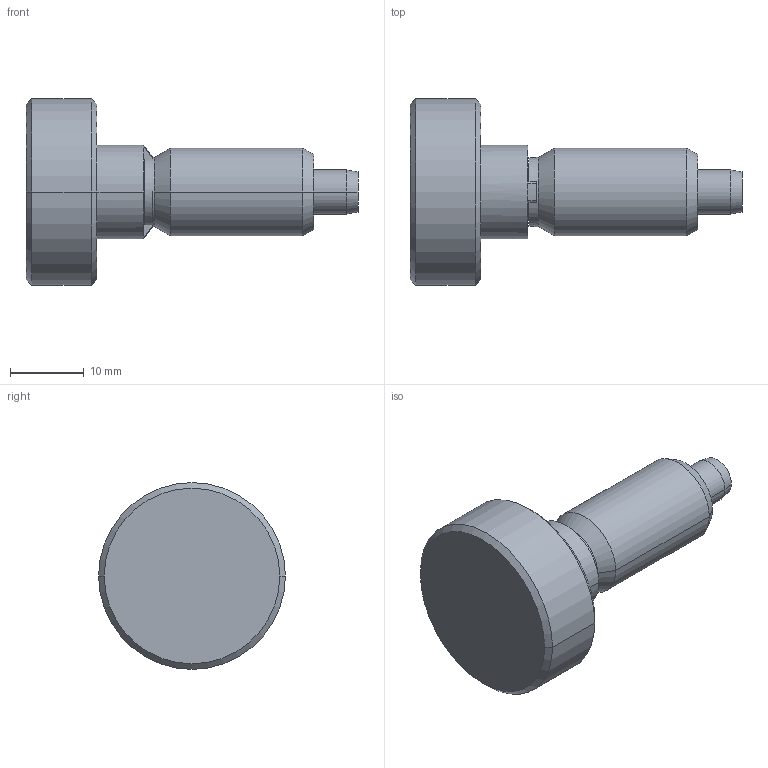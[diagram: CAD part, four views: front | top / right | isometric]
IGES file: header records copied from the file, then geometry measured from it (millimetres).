
Start section:  PTC IGES file: slm12-part.igs
Global section: file name: slm12-part.igs; native system: Pro/ENGINEER by Parametric Technology Corporation; preprocessor: 2002350; author: chant; organization: Unknown; date: 061214.163329; units: inch
Bounding box: 45.16 x 25.4 x 25.4 mm (x, y, z)
Surface area: 3996.7 mm2 (no closed solid volume)
Topology: 0 solids, 0 shells, 54 faces, 347 edges, 431 vertices
Faces by surface type: revolution 32, bspline 22
